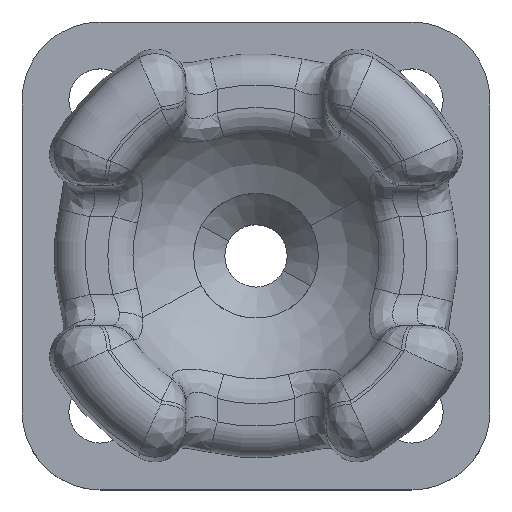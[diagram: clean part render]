
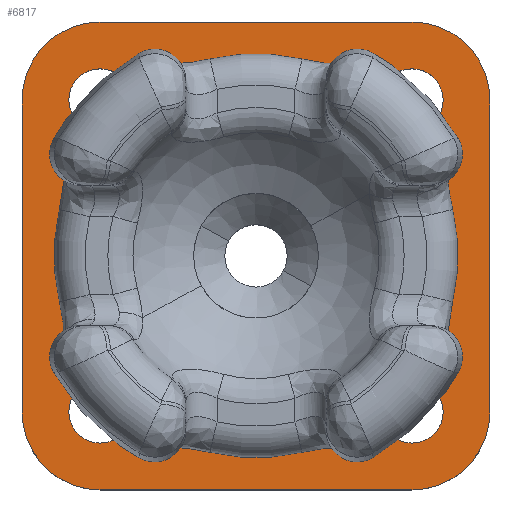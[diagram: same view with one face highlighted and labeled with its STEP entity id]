
A CAD part, top view. The second image highlights one B-rep face of the part: STEP entity #6817.
In plain terms, the highlighted planar face has unit normal (0, 0, 1).
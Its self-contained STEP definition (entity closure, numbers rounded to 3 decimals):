
#61=CARTESIAN_POINT('Vertex',(-8.245,10.959,3.)) ;
#77=CARTESIAN_POINT('Vertex',(-11.755,9.041,3.)) ;
#80=CARTESIAN_POINT('Axis2P3D Location',(-10.,10.,3.)) ;
#110=CARTESIAN_POINT('Vertex',(15.,10.,3.)) ;
#113=CARTESIAN_POINT('Line Origine',(15.,0.,3.)) ;
#117=CARTESIAN_POINT('Vertex',(15.,-10.,3.)) ;
#143=CARTESIAN_POINT('Vertex',(10.,15.,3.)) ;
#157=CARTESIAN_POINT('Vertex',(-10.,15.,3.)) ;
#160=CARTESIAN_POINT('Line Origine',(0.,15.,3.)) ;
#177=CARTESIAN_POINT('Line Origine',(-15.,0.,3.)) ;
#181=CARTESIAN_POINT('Vertex',(-15.,10.,3.)) ;
#183=CARTESIAN_POINT('Vertex',(-15.,-10.,3.)) ;
#223=CARTESIAN_POINT('Vertex',(10.,-15.,3.)) ;
#226=CARTESIAN_POINT('Line Origine',(0.,-15.,3.)) ;
#230=CARTESIAN_POINT('Vertex',(-10.,-15.,3.)) ;
#257=CARTESIAN_POINT('Axis2P3D Location',(0.,0.,3.)) ;
#261=CARTESIAN_POINT('Vertex',(-9.563,0.,3.)) ;
#263=CARTESIAN_POINT('Vertex',(8.392,4.585,3.)) ;
#298=CARTESIAN_POINT('Vertex',(-8.392,-4.585,3.)) ;
#301=CARTESIAN_POINT('Axis2P3D Location',(0.,0.,3.)) ;
#305=CARTESIAN_POINT('Vertex',(9.563,0.,3.)) ;
#308=CARTESIAN_POINT('Axis2P3D Location',(0.,0.,3.)) ;
#334=CARTESIAN_POINT('Axis2P3D Location',(0.,0.,3.)) ;
#6560=CARTESIAN_POINT('Axis2P3D Location',(10.,-10.,3.)) ;
#6582=CARTESIAN_POINT('Axis2P3D Location',(-10.,-10.,3.)) ;
#6604=CARTESIAN_POINT('Axis2P3D Location',(-10.,10.,3.)) ;
#6626=CARTESIAN_POINT('Axis2P3D Location',(10.,10.,3.)) ;
#6648=CARTESIAN_POINT('Axis2P3D Location',(-10.,10.,3.)) ;
#6738=CARTESIAN_POINT('Axis2P3D Location',(0.,0.,3.)) ;
#6763=CARTESIAN_POINT('Axis2P3D Location',(10.,-10.,3.)) ;
#6767=CARTESIAN_POINT('Vertex',(8.245,-10.959,3.)) ;
#6769=CARTESIAN_POINT('Vertex',(11.755,-9.041,3.)) ;
#6772=CARTESIAN_POINT('Axis2P3D Location',(10.,-10.,3.)) ;
#6781=CARTESIAN_POINT('Axis2P3D Location',(-10.,-10.,3.)) ;
#6785=CARTESIAN_POINT('Vertex',(-11.755,-10.959,3.)) ;
#6787=CARTESIAN_POINT('Vertex',(-8.245,-9.041,3.)) ;
#6790=CARTESIAN_POINT('Axis2P3D Location',(-10.,-10.,3.)) ;
#6799=CARTESIAN_POINT('Axis2P3D Location',(10.,10.,3.)) ;
#6803=CARTESIAN_POINT('Vertex',(8.245,9.041,3.)) ;
#6805=CARTESIAN_POINT('Vertex',(11.755,10.959,3.)) ;
#6808=CARTESIAN_POINT('Axis2P3D Location',(10.,10.,3.)) ;
#81=DIRECTION('Axis2P3D Direction',(0.,0.,1.)) ;
#114=DIRECTION('Vector Direction',(0.,1.,0.)) ;
#161=DIRECTION('Vector Direction',(1.,0.,0.)) ;
#178=DIRECTION('Vector Direction',(0.,-1.,0.)) ;
#227=DIRECTION('Vector Direction',(-1.,0.,0.)) ;
#258=DIRECTION('Axis2P3D Direction',(0.,0.,1.)) ;
#302=DIRECTION('Axis2P3D Direction',(0.,0.,1.)) ;
#309=DIRECTION('Axis2P3D Direction',(0.,0.,1.)) ;
#335=DIRECTION('Axis2P3D Direction',(0.,-0.,1.)) ;
#6561=DIRECTION('Axis2P3D Direction',(0.,0.,1.)) ;
#6583=DIRECTION('Axis2P3D Direction',(0.,0.,1.)) ;
#6605=DIRECTION('Axis2P3D Direction',(0.,0.,1.)) ;
#6627=DIRECTION('Axis2P3D Direction',(0.,-0.,1.)) ;
#6649=DIRECTION('Axis2P3D Direction',(0.,0.,1.)) ;
#6739=DIRECTION('Axis2P3D Direction',(0.,0.,1.)) ;
#6740=DIRECTION('Axis2P3D XDirection',(1.,0.,0.)) ;
#6764=DIRECTION('Axis2P3D Direction',(0.,0.,1.)) ;
#6773=DIRECTION('Axis2P3D Direction',(0.,0.,1.)) ;
#6782=DIRECTION('Axis2P3D Direction',(0.,0.,1.)) ;
#6791=DIRECTION('Axis2P3D Direction',(0.,0.,1.)) ;
#6800=DIRECTION('Axis2P3D Direction',(0.,0.,1.)) ;
#6809=DIRECTION('Axis2P3D Direction',(0.,0.,1.)) ;
#82=AXIS2_PLACEMENT_3D('Circle Axis2P3D',#80,#81,$) ;
#259=AXIS2_PLACEMENT_3D('Circle Axis2P3D',#257,#258,$) ;
#303=AXIS2_PLACEMENT_3D('Circle Axis2P3D',#301,#302,$) ;
#310=AXIS2_PLACEMENT_3D('Circle Axis2P3D',#308,#309,$) ;
#336=AXIS2_PLACEMENT_3D('Circle Axis2P3D',#334,#335,$) ;
#6562=AXIS2_PLACEMENT_3D('Circle Axis2P3D',#6560,#6561,$) ;
#6584=AXIS2_PLACEMENT_3D('Circle Axis2P3D',#6582,#6583,$) ;
#6606=AXIS2_PLACEMENT_3D('Circle Axis2P3D',#6604,#6605,$) ;
#6628=AXIS2_PLACEMENT_3D('Circle Axis2P3D',#6626,#6627,$) ;
#6650=AXIS2_PLACEMENT_3D('Circle Axis2P3D',#6648,#6649,$) ;
#6741=AXIS2_PLACEMENT_3D('Plane Axis2P3D',#6738,#6739,#6740) ;
#6765=AXIS2_PLACEMENT_3D('Circle Axis2P3D',#6763,#6764,$) ;
#6774=AXIS2_PLACEMENT_3D('Circle Axis2P3D',#6772,#6773,$) ;
#6783=AXIS2_PLACEMENT_3D('Circle Axis2P3D',#6781,#6782,$) ;
#6792=AXIS2_PLACEMENT_3D('Circle Axis2P3D',#6790,#6791,$) ;
#6801=AXIS2_PLACEMENT_3D('Circle Axis2P3D',#6799,#6800,$) ;
#6810=AXIS2_PLACEMENT_3D('Circle Axis2P3D',#6808,#6809,$) ;
#6744=ORIENTED_EDGE('',*,*,#119,.T.) ;
#6745=ORIENTED_EDGE('',*,*,#6630,.F.) ;
#6746=ORIENTED_EDGE('',*,*,#164,.T.) ;
#6747=ORIENTED_EDGE('',*,*,#6608,.F.) ;
#6748=ORIENTED_EDGE('',*,*,#185,.T.) ;
#6749=ORIENTED_EDGE('',*,*,#6586,.F.) ;
#6750=ORIENTED_EDGE('',*,*,#232,.T.) ;
#6751=ORIENTED_EDGE('',*,*,#6564,.F.) ;
#6754=ORIENTED_EDGE('',*,*,#6652,.F.) ;
#6755=ORIENTED_EDGE('',*,*,#84,.F.) ;
#6758=ORIENTED_EDGE('',*,*,#312,.T.) ;
#6759=ORIENTED_EDGE('',*,*,#307,.T.) ;
#6760=ORIENTED_EDGE('',*,*,#338,.T.) ;
#6761=ORIENTED_EDGE('',*,*,#265,.T.) ;
#6778=ORIENTED_EDGE('',*,*,#6771,.F.) ;
#6779=ORIENTED_EDGE('',*,*,#6776,.F.) ;
#6796=ORIENTED_EDGE('',*,*,#6789,.F.) ;
#6797=ORIENTED_EDGE('',*,*,#6794,.F.) ;
#6814=ORIENTED_EDGE('',*,*,#6807,.F.) ;
#6815=ORIENTED_EDGE('',*,*,#6812,.F.) ;
#6756=FACE_BOUND('',#6753,.T.) ;
#6762=FACE_BOUND('',#6757,.T.) ;
#6780=FACE_BOUND('',#6777,.T.) ;
#6798=FACE_BOUND('',#6795,.T.) ;
#6816=FACE_BOUND('',#6813,.T.) ;
#115=VECTOR('Line Direction',#114,1.) ;
#162=VECTOR('Line Direction',#161,1.) ;
#179=VECTOR('Line Direction',#178,1.) ;
#228=VECTOR('Line Direction',#227,1.) ;
#6817=ADVANCED_FACE('PartBody',(#6752,#6756,#6762,#6780,#6798,#6816),#6742,.T.) ;
#83=CIRCLE('generated circle',#82,2.) ;
#260=CIRCLE('generated circle',#259,9.563) ;
#304=CIRCLE('generated circle',#303,9.563) ;
#311=CIRCLE('generated circle',#310,9.563) ;
#337=CIRCLE('generated circle',#336,9.563) ;
#6563=CIRCLE('generated circle',#6562,5.) ;
#6585=CIRCLE('generated circle',#6584,5.) ;
#6607=CIRCLE('generated circle',#6606,5.) ;
#6629=CIRCLE('generated circle',#6628,5.) ;
#6651=CIRCLE('generated circle',#6650,2.) ;
#6766=CIRCLE('generated circle',#6765,2.) ;
#6775=CIRCLE('generated circle',#6774,2.) ;
#6784=CIRCLE('generated circle',#6783,2.) ;
#6793=CIRCLE('generated circle',#6792,2.) ;
#6802=CIRCLE('generated circle',#6801,2.) ;
#6811=CIRCLE('generated circle',#6810,2.) ;
#84=EDGE_CURVE('',#78,#62,#83,.T.) ;
#119=EDGE_CURVE('',#118,#111,#116,.T.) ;
#164=EDGE_CURVE('',#144,#158,#163,.F.) ;
#185=EDGE_CURVE('',#182,#184,#180,.T.) ;
#232=EDGE_CURVE('',#231,#224,#229,.F.) ;
#265=EDGE_CURVE('',#262,#264,#260,.F.) ;
#307=EDGE_CURVE('',#306,#299,#304,.F.) ;
#312=EDGE_CURVE('',#264,#306,#311,.F.) ;
#338=EDGE_CURVE('',#299,#262,#337,.F.) ;
#6564=EDGE_CURVE('',#118,#224,#6563,.F.) ;
#6586=EDGE_CURVE('',#231,#184,#6585,.F.) ;
#6608=EDGE_CURVE('',#182,#158,#6607,.F.) ;
#6630=EDGE_CURVE('',#144,#111,#6629,.F.) ;
#6652=EDGE_CURVE('',#62,#78,#6651,.T.) ;
#6771=EDGE_CURVE('',#6768,#6770,#6766,.T.) ;
#6776=EDGE_CURVE('',#6770,#6768,#6775,.T.) ;
#6789=EDGE_CURVE('',#6786,#6788,#6784,.T.) ;
#6794=EDGE_CURVE('',#6788,#6786,#6793,.T.) ;
#6807=EDGE_CURVE('',#6804,#6806,#6802,.T.) ;
#6812=EDGE_CURVE('',#6806,#6804,#6811,.T.) ;
#6743=EDGE_LOOP('',(#6744,#6745,#6746,#6747,#6748,#6749,#6750,#6751)) ;
#6753=EDGE_LOOP('',(#6754,#6755)) ;
#6757=EDGE_LOOP('',(#6758,#6759,#6760,#6761)) ;
#6777=EDGE_LOOP('',(#6778,#6779)) ;
#6795=EDGE_LOOP('',(#6796,#6797)) ;
#6813=EDGE_LOOP('',(#6814,#6815)) ;
#6752=FACE_OUTER_BOUND('',#6743,.T.) ;
#116=LINE('Line',#113,#115) ;
#163=LINE('Line',#160,#162) ;
#180=LINE('Line',#177,#179) ;
#229=LINE('Line',#226,#228) ;
#6742=PLANE('',#6741) ;
#62=VERTEX_POINT('',#61) ;
#78=VERTEX_POINT('',#77) ;
#111=VERTEX_POINT('',#110) ;
#118=VERTEX_POINT('',#117) ;
#144=VERTEX_POINT('',#143) ;
#158=VERTEX_POINT('',#157) ;
#182=VERTEX_POINT('',#181) ;
#184=VERTEX_POINT('',#183) ;
#224=VERTEX_POINT('',#223) ;
#231=VERTEX_POINT('',#230) ;
#262=VERTEX_POINT('',#261) ;
#264=VERTEX_POINT('',#263) ;
#299=VERTEX_POINT('',#298) ;
#306=VERTEX_POINT('',#305) ;
#6768=VERTEX_POINT('',#6767) ;
#6770=VERTEX_POINT('',#6769) ;
#6786=VERTEX_POINT('',#6785) ;
#6788=VERTEX_POINT('',#6787) ;
#6804=VERTEX_POINT('',#6803) ;
#6806=VERTEX_POINT('',#6805) ;
